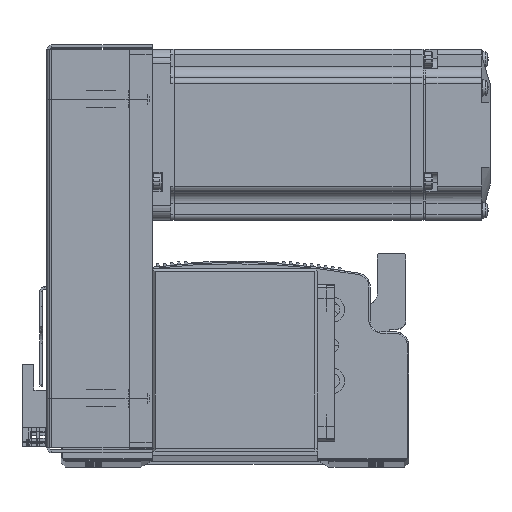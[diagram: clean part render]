
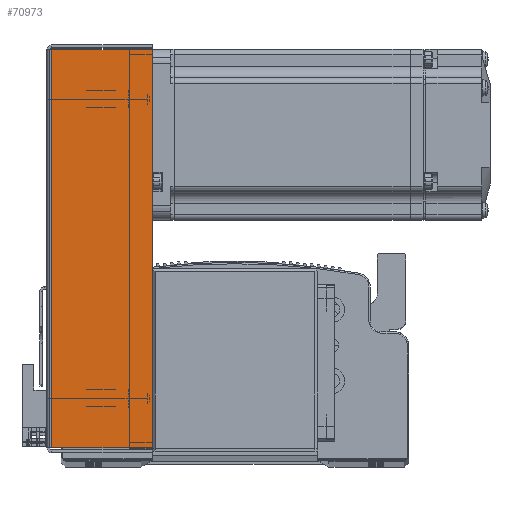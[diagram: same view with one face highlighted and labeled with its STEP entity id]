
A CAD part, top view. The second image highlights one B-rep face of the part: STEP entity #70973.
In plain terms, the highlighted planar face has unit normal (0, 0, 1) as drawn and (0, 0, -1) by its records, which use the part's own axes.
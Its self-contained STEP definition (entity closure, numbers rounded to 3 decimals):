
#9054 = FACE_OUTER_BOUND ( 'NONE', #15826, .T. ) ;
#15826 = EDGE_LOOP ( 'NONE', ( #83512, #83544, #83514, #83680 ) ) ;
#18454 = CARTESIAN_POINT ( 'NONE',  ( 69.793, 0., -33.5 ) ) ;
#18466 = DIRECTION ( 'NONE',  ( 0., 1., 0. ) ) ;
#18573 = CARTESIAN_POINT ( 'NONE',  ( -69.793, 0., -33.5 ) ) ;
#18603 = DIRECTION ( 'NONE',  ( 0., 1., 0. ) ) ;
#18709 = CARTESIAN_POINT ( 'NONE',  ( 0., 36., -33.5 ) ) ;
#18718 = DIRECTION ( 'NONE',  ( 1., 0., 0. ) ) ;
#18729 = CARTESIAN_POINT ( 'NONE',  ( 71.5, 0.737, -33.5 ) ) ;
#18737 = DIRECTION ( 'NONE',  ( 1., 0., 0. ) ) ;
#19581 = VECTOR ( 'NONE', #18466, 1000. ) ;
#19602 = LINE ( 'NONE', #18573, #19606 ) ;
#19606 = VECTOR ( 'NONE', #18603, 1000. ) ;
#19622 = LINE ( 'NONE', #18454, #19581 ) ;
#19643 = LINE ( 'NONE', #18709, #19667 ) ;
#19667 = VECTOR ( 'NONE', #18718, 1000. ) ;
#19680 = LINE ( 'NONE', #18729, #19691 ) ;
#19691 = VECTOR ( 'NONE', #18737, 1000. ) ;
#34312 = CARTESIAN_POINT ( 'NONE',  ( 69.793, 36., -33.5 ) ) ;
#34354 = CARTESIAN_POINT ( 'NONE',  ( -69.793, 0.737, -33.5 ) ) ;
#34382 = CARTESIAN_POINT ( 'NONE',  ( 69.793, 0.737, -33.5 ) ) ;
#34387 = CARTESIAN_POINT ( 'NONE',  ( -69.793, 36., -33.5 ) ) ;
#52948 = VERTEX_POINT ( 'NONE', #34382 ) ;
#52954 = VERTEX_POINT ( 'NONE', #34354 ) ;
#52991 = VERTEX_POINT ( 'NONE', #34312 ) ;
#52993 = VERTEX_POINT ( 'NONE', #34387 ) ;
#58411 = AXIS2_PLACEMENT_3D ( 'NONE', #93389, #93436, #93418 ) ;
#70973 = ADVANCED_FACE ( 'NONE', ( #9054 ), #93380, .F. ) ;
#80396 = EDGE_CURVE ( 'NONE', #52948, #52991, #19622, .T. ) ;
#80405 = EDGE_CURVE ( 'NONE', #52954, #52993, #19602, .T. ) ;
#80447 = EDGE_CURVE ( 'NONE', #52954, #52948, #19680, .T. ) ;
#80460 = EDGE_CURVE ( 'NONE', #52993, #52991, #19643, .T. ) ;
#83512 = ORIENTED_EDGE ( 'NONE', *, *, #80447, .F. ) ;
#83514 = ORIENTED_EDGE ( 'NONE', *, *, #80460, .T. ) ;
#83544 = ORIENTED_EDGE ( 'NONE', *, *, #80405, .T. ) ;
#83680 = ORIENTED_EDGE ( 'NONE', *, *, #80396, .F. ) ;
#93380 = PLANE ( 'NONE',  #58411 ) ;
#93389 = CARTESIAN_POINT ( 'NONE',  ( 0., 0., -33.5 ) ) ;
#93418 = DIRECTION ( 'NONE',  ( 0., -1., 0. ) ) ;
#93436 = DIRECTION ( 'NONE',  ( 0., 0., 1. ) ) ;
